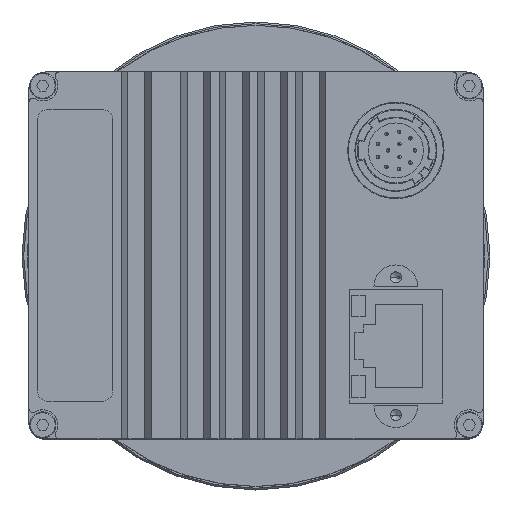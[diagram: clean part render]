
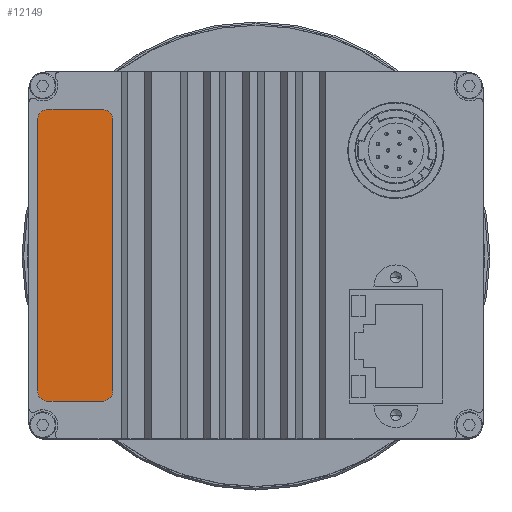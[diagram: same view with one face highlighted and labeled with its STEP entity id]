
A CAD part, top view. The second image highlights one B-rep face of the part: STEP entity #12149.
In plain terms, the highlighted planar face has unit normal (0, 0, 1).
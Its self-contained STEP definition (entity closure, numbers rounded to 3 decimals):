
#230 = DIRECTION ( 'NONE',  ( 0., 0., 1. ) ) ;
#274 = EDGE_CURVE ( 'NONE', #20902, #11410, #4841, .T. ) ;
#1214 = CARTESIAN_POINT ( 'NONE',  ( -22.352, 21.209, 12.192 ) ) ;
#1531 = AXIS2_PLACEMENT_3D ( 'NONE', #8627, #20685, #14477 ) ;
#1771 = CARTESIAN_POINT ( 'NONE',  ( -20.828, -19.685, 12.192 ) ) ;
#1807 = LINE ( 'NONE', #1771, #20300 ) ;
#1917 = ORIENTED_EDGE ( 'NONE', *, *, #4678, .T. ) ;
#2762 = VERTEX_POINT ( 'NONE', #21548 ) ;
#2924 = VECTOR ( 'NONE', #17505, 1000. ) ;
#3357 = AXIS2_PLACEMENT_3D ( 'NONE', #12404, #24545, #4512 ) ;
#3834 = CARTESIAN_POINT ( 'NONE',  ( -22.352, 19.685, 12.192 ) ) ;
#4512 = DIRECTION ( 'NONE',  ( -1., 0., 0. ) ) ;
#4566 = DIRECTION ( 'NONE',  ( -1., 0., 0. ) ) ;
#4678 = EDGE_CURVE ( 'NONE', #11410, #2762, #8512, .T. ) ;
#4841 = CIRCLE ( 'NONE', #15570, 1.524 ) ;
#5041 = VERTEX_POINT ( 'NONE', #7035 ) ;
#6030 = ORIENTED_EDGE ( 'NONE', *, *, #11462, .T. ) ;
#6179 = ORIENTED_EDGE ( 'NONE', *, *, #7160, .T. ) ;
#7030 = CARTESIAN_POINT ( 'NONE',  ( -20.828, 19.685, 12.192 ) ) ;
#7035 = CARTESIAN_POINT ( 'NONE',  ( -22.352, -21.209, 12.192 ) ) ;
#7091 = DIRECTION ( 'NONE',  ( -1., 0., 0. ) ) ;
#7160 = EDGE_CURVE ( 'NONE', #16172, #19617, #16144, .T. ) ;
#7519 = EDGE_CURVE ( 'NONE', #5041, #23691, #11097, .T. ) ;
#8123 = AXIS2_PLACEMENT_3D ( 'NONE', #10136, #230, #14244 ) ;
#8136 = EDGE_CURVE ( 'NONE', #2762, #19532, #8892, .T. ) ;
#8512 = LINE ( 'NONE', #1214, #19767 ) ;
#8627 = CARTESIAN_POINT ( 'NONE',  ( -30.226, -19.685, 12.192 ) ) ;
#8892 = CIRCLE ( 'NONE', #19680, 1.524 ) ;
#10136 = CARTESIAN_POINT ( 'NONE',  ( -22.352, -19.685, 12.192 ) ) ;
#10472 = CARTESIAN_POINT ( 'NONE',  ( -22.352, 21.209, 12.192 ) ) ;
#11097 = CIRCLE ( 'NONE', #8123, 1.524 ) ;
#11410 = VERTEX_POINT ( 'NONE', #10472 ) ;
#11462 = EDGE_CURVE ( 'NONE', #19617, #5041, #16117, .T. ) ;
#11828 = DIRECTION ( 'NONE',  ( 0., 0., 1. ) ) ;
#12149 = ADVANCED_FACE ( 'NONE', ( #22592 ), #18364, .T. ) ;
#12404 = CARTESIAN_POINT ( 'NONE',  ( -22.352, 19.685, 12.192 ) ) ;
#12899 = ORIENTED_EDGE ( 'NONE', *, *, #16190, .T. ) ;
#13370 = ORIENTED_EDGE ( 'NONE', *, *, #274, .T. ) ;
#13457 = CARTESIAN_POINT ( 'NONE',  ( -31.75, -19.685, 12.192 ) ) ;
#13490 = ORIENTED_EDGE ( 'NONE', *, *, #7519, .T. ) ;
#14133 = DIRECTION ( 'NONE',  ( 0., 0., 1. ) ) ;
#14244 = DIRECTION ( 'NONE',  ( -1., 0., 0. ) ) ;
#14477 = DIRECTION ( 'NONE',  ( 1., 0., 0. ) ) ;
#15570 = AXIS2_PLACEMENT_3D ( 'NONE', #3834, #11828, #18034 ) ;
#15683 = ORIENTED_EDGE ( 'NONE', *, *, #8136, .T. ) ;
#16117 = LINE ( 'NONE', #21343, #2924 ) ;
#16144 = CIRCLE ( 'NONE', #1531, 1.524 ) ;
#16172 = VERTEX_POINT ( 'NONE', #13457 ) ;
#16190 = EDGE_CURVE ( 'NONE', #19532, #16172, #20295, .T. ) ;
#16430 = CARTESIAN_POINT ( 'NONE',  ( -20.828, -19.685, 12.192 ) ) ;
#16947 = ORIENTED_EDGE ( 'NONE', *, *, #22821, .T. ) ;
#17505 = DIRECTION ( 'NONE',  ( 1., 0., 0. ) ) ;
#18034 = DIRECTION ( 'NONE',  ( -1., 0., 0. ) ) ;
#18056 = CARTESIAN_POINT ( 'NONE',  ( -30.226, 19.685, 12.192 ) ) ;
#18364 = PLANE ( 'NONE',  #3357 ) ;
#19532 = VERTEX_POINT ( 'NONE', #24487 ) ;
#19617 = VERTEX_POINT ( 'NONE', #23083 ) ;
#19680 = AXIS2_PLACEMENT_3D ( 'NONE', #18056, #14133, #4566 ) ;
#19767 = VECTOR ( 'NONE', #7091, 1000. ) ;
#20039 = CARTESIAN_POINT ( 'NONE',  ( -31.75, -19.685, 12.192 ) ) ;
#20253 = DIRECTION ( 'NONE',  ( 0., 1., 0. ) ) ;
#20295 = LINE ( 'NONE', #20039, #21473 ) ;
#20300 = VECTOR ( 'NONE', #20253, 1000. ) ;
#20685 = DIRECTION ( 'NONE',  ( 0., 0., 1. ) ) ;
#20902 = VERTEX_POINT ( 'NONE', #7030 ) ;
#20957 = EDGE_LOOP ( 'NONE', ( #13370, #1917, #15683, #12899, #6179, #6030, #13490, #16947 ) ) ;
#21343 = CARTESIAN_POINT ( 'NONE',  ( -22.352, -21.209, 12.192 ) ) ;
#21473 = VECTOR ( 'NONE', #23954, 1000. ) ;
#21548 = CARTESIAN_POINT ( 'NONE',  ( -30.226, 21.209, 12.192 ) ) ;
#22592 = FACE_OUTER_BOUND ( 'NONE', #20957, .T. ) ;
#22821 = EDGE_CURVE ( 'NONE', #23691, #20902, #1807, .T. ) ;
#23083 = CARTESIAN_POINT ( 'NONE',  ( -30.226, -21.209, 12.192 ) ) ;
#23691 = VERTEX_POINT ( 'NONE', #16430 ) ;
#23954 = DIRECTION ( 'NONE',  ( 0., -1., 0. ) ) ;
#24487 = CARTESIAN_POINT ( 'NONE',  ( -31.75, 19.685, 12.192 ) ) ;
#24545 = DIRECTION ( 'NONE',  ( 0., 0., 1. ) ) ;
